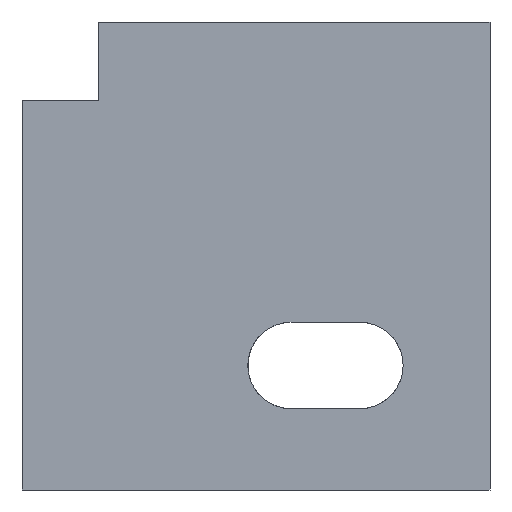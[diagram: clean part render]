
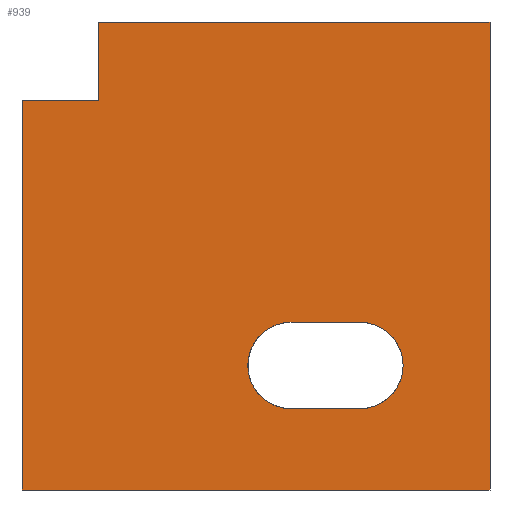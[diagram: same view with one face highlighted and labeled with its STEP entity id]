
A CAD part, left-side view. The second image highlights one B-rep face of the part: STEP entity #939.
In plain terms, the highlighted planar face has unit normal (-1, 0, 0).
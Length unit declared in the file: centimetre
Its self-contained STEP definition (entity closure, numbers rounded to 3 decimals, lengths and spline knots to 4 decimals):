
#21 = CARTESIAN_POINT ( 'NONE',  ( 0., 1000., 0. ) ) ;
#26 = CIRCLE ( 'NONE', #1536, 92.328 ) ;
#34 = EDGE_CURVE ( 'NONE', #2128, #308, #121, .T. ) ;
#35 = CARTESIAN_POINT ( 'NONE',  ( 0., 277.9226, 266.0213 ) ) ;
#40 = AXIS2_PLACEMENT_3D ( 'NONE', #35, #2033, #223 ) ;
#64 = CARTESIAN_POINT ( 'NONE',  ( 0., 835.6888, 832.2193 ) ) ;
#74 = VECTOR ( 'NONE', #258, 100. ) ;
#100 = CARTESIAN_POINT ( 'NONE',  ( 0., 835.6888, 1000. ) ) ;
#114 = VERTEX_POINT ( 'NONE', #1425 ) ;
#121 = LINE ( 'NONE', #283, #182 ) ;
#182 = VECTOR ( 'NONE', #1300, 100. ) ;
#184 = LINE ( 'NONE', #21, #1548 ) ;
#223 = DIRECTION ( 'NONE',  ( 0., 0., -1. ) ) ;
#228 = CARTESIAN_POINT ( 'NONE',  ( 0., 1000., 832.2193 ) ) ;
#251 = CIRCLE ( 'NONE', #40, 92.328 ) ;
#258 = DIRECTION ( 'NONE',  ( 0., -1., 0. ) ) ;
#278 = LINE ( 'NONE', #1165, #385 ) ;
#283 = CARTESIAN_POINT ( 'NONE',  ( 0., 425.2107, 358.3493 ) ) ;
#308 = VERTEX_POINT ( 'NONE', #1729 ) ;
#318 = VERTEX_POINT ( 'NONE', #762 ) ;
#324 = DIRECTION ( 'NONE',  ( 0., 0., -1. ) ) ;
#341 = ORIENTED_EDGE ( 'NONE', *, *, #34, .F. ) ;
#364 = VECTOR ( 'NONE', #1396, 100. ) ;
#385 = VECTOR ( 'NONE', #1680, 100. ) ;
#397 = VECTOR ( 'NONE', #1049, 100. ) ;
#410 = CARTESIAN_POINT ( 'NONE',  ( 0., 0., 1000. ) ) ;
#414 = AXIS2_PLACEMENT_3D ( 'NONE', #1558, #1399, #324 ) ;
#433 = FACE_BOUND ( 'NONE', #456, .T. ) ;
#456 = EDGE_LOOP ( 'NONE', ( #341, #916, #1702, #580 ) ) ;
#462 = EDGE_CURVE ( 'NONE', #1909, #500, #1468, .T. ) ;
#463 = VERTEX_POINT ( 'NONE', #1373 ) ;
#489 = EDGE_CURVE ( 'NONE', #1053, #860, #1093, .T. ) ;
#500 = VERTEX_POINT ( 'NONE', #64 ) ;
#552 = CARTESIAN_POINT ( 'NONE',  ( 0., 277.9226, 173.6932 ) ) ;
#563 = CARTESIAN_POINT ( 'NONE',  ( 0., 1000., 1000. ) ) ;
#580 = ORIENTED_EDGE ( 'NONE', *, *, #1319, .F. ) ;
#710 = EDGE_CURVE ( 'NONE', #114, #860, #184, .T. ) ;
#762 = CARTESIAN_POINT ( 'NONE',  ( 0., 425.2107, 173.6932 ) ) ;
#778 = CARTESIAN_POINT ( 'NONE',  ( 0., 277.9226, 358.3493 ) ) ;
#814 = EDGE_CURVE ( 'NONE', #1894, #114, #1805, .T. ) ;
#860 = VERTEX_POINT ( 'NONE', #2047 ) ;
#876 = VECTOR ( 'NONE', #1529, 100. ) ;
#886 = ORIENTED_EDGE ( 'NONE', *, *, #1618, .F. ) ;
#910 = PLANE ( 'NONE',  #414 ) ;
#916 = ORIENTED_EDGE ( 'NONE', *, *, #1814, .F. ) ;
#939 = ADVANCED_FACE ( 'NONE', ( #433, #1068 ), #910, .F. ) ;
#955 = DIRECTION ( 'NONE',  ( -1., 0., 0. ) ) ;
#998 = EDGE_CURVE ( 'NONE', #500, #1894, #278, .T. ) ;
#1049 = DIRECTION ( 'NONE',  ( 0., -1., 0. ) ) ;
#1053 = VERTEX_POINT ( 'NONE', #1325 ) ;
#1068 = FACE_OUTER_BOUND ( 'NONE', #1667, .T. ) ;
#1093 = LINE ( 'NONE', #410, #876 ) ;
#1108 = ORIENTED_EDGE ( 'NONE', *, *, #710, .T. ) ;
#1165 = CARTESIAN_POINT ( 'NONE',  ( 0., 835.6888, 832.2193 ) ) ;
#1198 = LINE ( 'NONE', #552, #397 ) ;
#1300 = DIRECTION ( 'NONE',  ( 0., 1., 0. ) ) ;
#1319 = EDGE_CURVE ( 'NONE', #308, #318, #26, .T. ) ;
#1325 = CARTESIAN_POINT ( 'NONE',  ( 0., 0., 1000. ) ) ;
#1373 = CARTESIAN_POINT ( 'NONE',  ( 0., 277.9226, 173.6932 ) ) ;
#1389 = DIRECTION ( 'NONE',  ( 0., 0., -1. ) ) ;
#1396 = DIRECTION ( 'NONE',  ( 0., 0., -1. ) ) ;
#1399 = DIRECTION ( 'NONE',  ( 1., 0., 0. ) ) ;
#1416 = ORIENTED_EDGE ( 'NONE', *, *, #462, .T. ) ;
#1425 = CARTESIAN_POINT ( 'NONE',  ( 0., 1000., 0. ) ) ;
#1461 = DIRECTION ( 'NONE',  ( 0., 0., -1. ) ) ;
#1468 = LINE ( 'NONE', #2129, #364 ) ;
#1484 = DIRECTION ( 'NONE',  ( 0., -1., 0. ) ) ;
#1520 = VECTOR ( 'NONE', #1389, 100. ) ;
#1529 = DIRECTION ( 'NONE',  ( 0., 0., -1. ) ) ;
#1532 = LINE ( 'NONE', #563, #74 ) ;
#1535 = ORIENTED_EDGE ( 'NONE', *, *, #814, .T. ) ;
#1536 = AXIS2_PLACEMENT_3D ( 'NONE', #1929, #955, #1461 ) ;
#1548 = VECTOR ( 'NONE', #1484, 100. ) ;
#1558 = CARTESIAN_POINT ( 'NONE',  ( 0., 1000., 1000. ) ) ;
#1618 = EDGE_CURVE ( 'NONE', #1909, #1053, #1532, .T. ) ;
#1667 = EDGE_LOOP ( 'NONE', ( #1416, #2098, #1535, #1108, #1915, #886 ) ) ;
#1680 = DIRECTION ( 'NONE',  ( 0., 1., 0. ) ) ;
#1702 = ORIENTED_EDGE ( 'NONE', *, *, #1773, .F. ) ;
#1729 = CARTESIAN_POINT ( 'NONE',  ( 0., 425.2107, 358.3493 ) ) ;
#1773 = EDGE_CURVE ( 'NONE', #318, #463, #1198, .T. ) ;
#1805 = LINE ( 'NONE', #1874, #1520 ) ;
#1814 = EDGE_CURVE ( 'NONE', #463, #2128, #251, .T. ) ;
#1874 = CARTESIAN_POINT ( 'NONE',  ( 0., 1000., 1000. ) ) ;
#1894 = VERTEX_POINT ( 'NONE', #228 ) ;
#1909 = VERTEX_POINT ( 'NONE', #100 ) ;
#1915 = ORIENTED_EDGE ( 'NONE', *, *, #489, .F. ) ;
#1929 = CARTESIAN_POINT ( 'NONE',  ( 0., 425.2107, 266.0213 ) ) ;
#2033 = DIRECTION ( 'NONE',  ( -1., 0., 0. ) ) ;
#2047 = CARTESIAN_POINT ( 'NONE',  ( 0., 0., 0. ) ) ;
#2098 = ORIENTED_EDGE ( 'NONE', *, *, #998, .T. ) ;
#2128 = VERTEX_POINT ( 'NONE', #778 ) ;
#2129 = CARTESIAN_POINT ( 'NONE',  ( 0., 835.6888, 832.2193 ) ) ;
